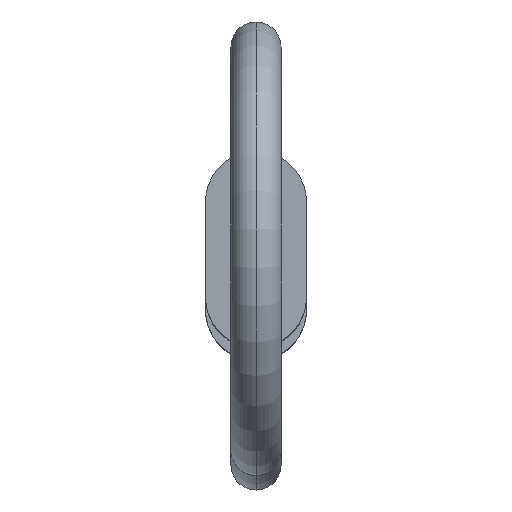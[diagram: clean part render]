
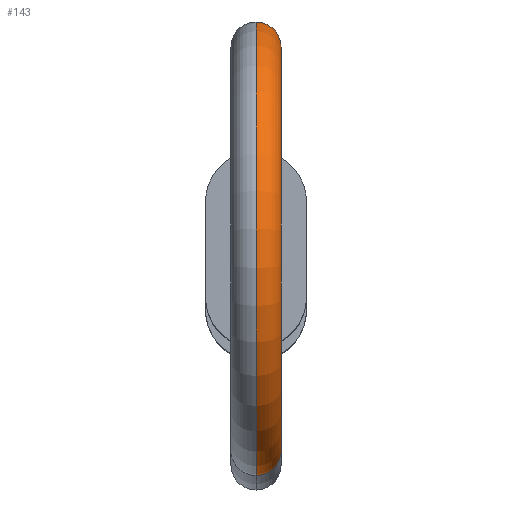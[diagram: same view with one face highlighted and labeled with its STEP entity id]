
A CAD part, top view. The second image highlights one B-rep face of the part: STEP entity #143.
In plain terms, the highlighted toroidal (fillet/blend) face has major radius 4.8 mm and minor radius 0.595 mm.
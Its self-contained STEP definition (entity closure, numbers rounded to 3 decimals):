
#25 = DIRECTION ( 'NONE',  ( 0., 0.667, 0.745 ) ) ;
#32 = FACE_OUTER_BOUND ( 'NONE', #551, .T. ) ;
#79 = VERTEX_POINT ( 'NONE', #910 ) ;
#85 = AXIS2_PLACEMENT_3D ( 'NONE', #743, #146, #383 ) ;
#99 = CARTESIAN_POINT ( 'NONE',  ( 0., 2.445, 98.4 ) ) ;
#122 = CARTESIAN_POINT ( 'NONE',  ( 0., -4.711, 98.4 ) ) ;
#130 = AXIS2_PLACEMENT_3D ( 'NONE', #122, #711, #341 ) ;
#143 = ADVANCED_FACE ( 'NONE', ( #32 ), #865, .T. ) ;
#146 = DIRECTION ( 'NONE',  ( 1., 0., 0. ) ) ;
#148 = CARTESIAN_POINT ( 'NONE',  ( 0., -1.133, 101.6 ) ) ;
#155 = ORIENTED_EDGE ( 'NONE', *, *, #929, .T. ) ;
#223 = EDGE_CURVE ( 'NONE', #561, #79, #827, .T. ) ;
#231 = ORIENTED_EDGE ( 'NONE', *, *, #223, .F. ) ;
#266 = ORIENTED_EDGE ( 'NONE', *, *, #359, .F. ) ;
#292 = CARTESIAN_POINT ( 'NONE',  ( 0., -5.154, 98.003 ) ) ;
#336 = DIRECTION ( 'NONE',  ( 0., 0., -1. ) ) ;
#341 = DIRECTION ( 'NONE',  ( 1., 0., 0. ) ) ;
#359 = EDGE_CURVE ( 'NONE', #79, #733, #425, .T. ) ;
#383 = DIRECTION ( 'NONE',  ( 0., 0., -1. ) ) ;
#425 = CIRCLE ( 'NONE', #130, 0.595 ) ;
#467 = DIRECTION ( 'NONE',  ( 1., 0., 0. ) ) ;
#472 = CARTESIAN_POINT ( 'NONE',  ( 0., 2.888, 98.003 ) ) ;
#505 = CIRCLE ( 'NONE', #85, 5.395 ) ;
#551 = EDGE_LOOP ( 'NONE', ( #155, #768, #266, #231 ) ) ;
#555 = AXIS2_PLACEMENT_3D ( 'NONE', #557, #630, #336 ) ;
#557 = CARTESIAN_POINT ( 'NONE',  ( 0., -1.133, 101.6 ) ) ;
#561 = VERTEX_POINT ( 'NONE', #882 ) ;
#576 = AXIS2_PLACEMENT_3D ( 'NONE', #148, #671, #873 ) ;
#630 = DIRECTION ( 'NONE',  ( 1., 0., 0. ) ) ;
#671 = DIRECTION ( 'NONE',  ( 1., 0., 0. ) ) ;
#710 = AXIS2_PLACEMENT_3D ( 'NONE', #99, #25, #467 ) ;
#711 = DIRECTION ( 'NONE',  ( 0., 0.667, -0.745 ) ) ;
#733 = VERTEX_POINT ( 'NONE', #292 ) ;
#743 = CARTESIAN_POINT ( 'NONE',  ( 0., -1.133, 101.6 ) ) ;
#765 = EDGE_CURVE ( 'NONE', #908, #733, #505, .T. ) ;
#768 = ORIENTED_EDGE ( 'NONE', *, *, #765, .T. ) ;
#827 = CIRCLE ( 'NONE', #576, 4.205 ) ;
#850 = CIRCLE ( 'NONE', #710, 0.595 ) ;
#865 = TOROIDAL_SURFACE ( 'NONE', #555, 4.8, 0.595 ) ;
#873 = DIRECTION ( 'NONE',  ( 0., 0., -1. ) ) ;
#882 = CARTESIAN_POINT ( 'NONE',  ( 0., 2.001, 98.797 ) ) ;
#908 = VERTEX_POINT ( 'NONE', #472 ) ;
#910 = CARTESIAN_POINT ( 'NONE',  ( 0., -4.267, 98.797 ) ) ;
#929 = EDGE_CURVE ( 'NONE', #561, #908, #850, .T. ) ;
